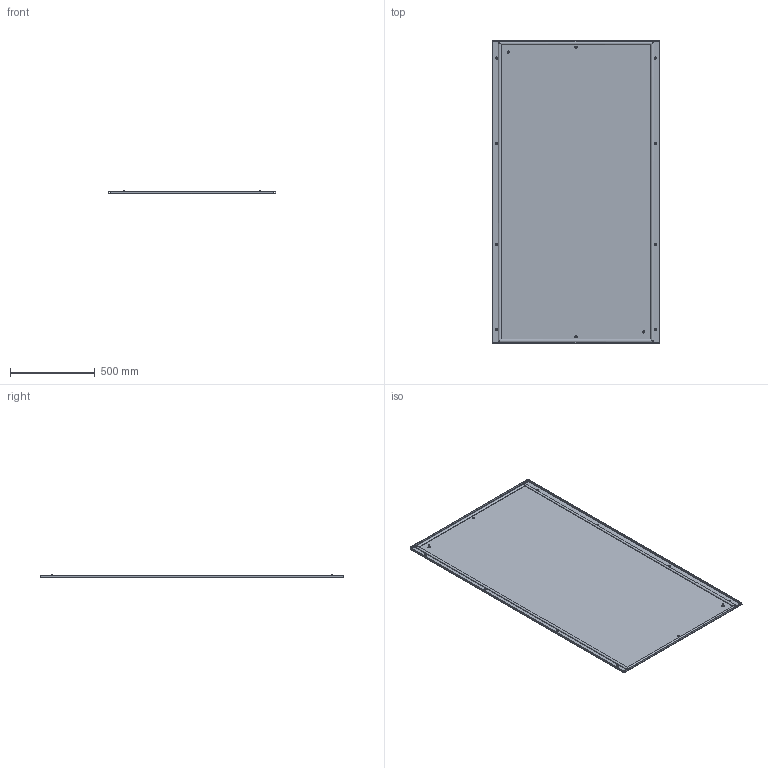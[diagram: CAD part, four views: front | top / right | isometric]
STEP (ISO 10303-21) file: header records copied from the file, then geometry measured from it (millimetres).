
FILE_DESCRIPTION(('STEP AP203'), '1');
FILE_NAME('Ïàíåëü çàäíÿÿ 1800õ1000 ìì IP55 OptiBox M 419671 ÊÝÀÇ', '', ('UNSPECIFIED'), ('UNSPECIFIED'), 'C3D Converter', 'C3D Toolkit', '');
FILE_SCHEMA(('CONFIG_CONTROL_DESIGN'));
Length unit declared in the file: millimetre
Bounding box: 986 x 1786 x 18.9 mm (x, y, z)
Volume: 3047615 mm3; surface area: 3873564.8 mm2
Topology: 4 solids, 4 shells, 147 faces, 302 edges, 180 vertices
Faces by surface type: plane 81, cylinder 58, bspline 8
Full cylindrical faces by diameter (mm): 0.75 x2, 1 x2, 6.3 x10, 8 x2, 9.3 x2, 13 x2, 13.5 x10
Entity records: 6048 total; most frequent: CARTESIAN_POINT 1976, DIRECTION 600, ORIENTED_EDGE 544, EDGE_CURVE 272, AXIS2_PLACEMENT_3D 224, EDGE_LOOP 216, VERTEX_POINT 180, FACE_BOUND 156
